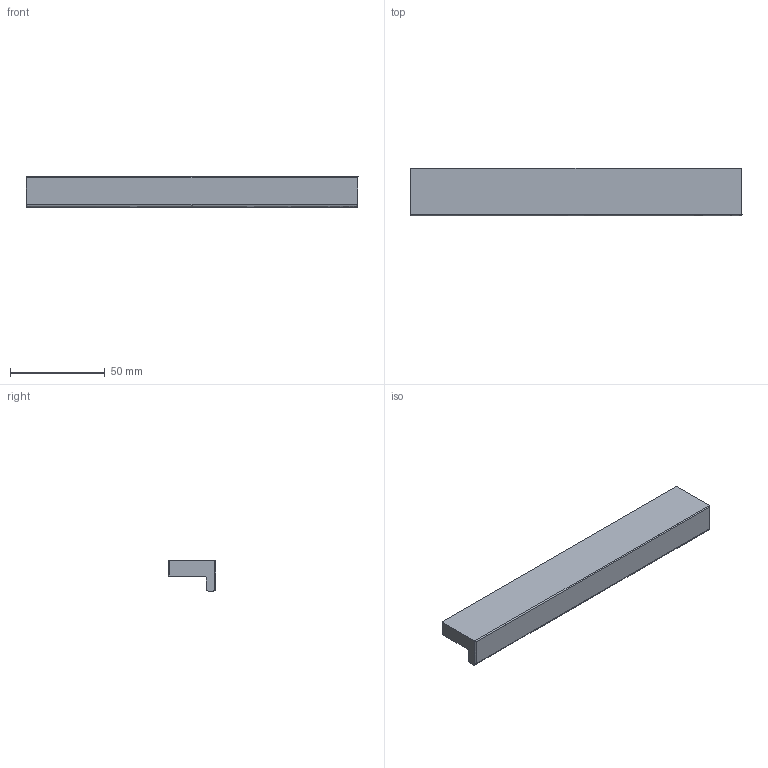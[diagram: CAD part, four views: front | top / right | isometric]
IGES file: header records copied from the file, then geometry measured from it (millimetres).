
Start section: Data from Parasolid IGES Translator 15.0.47, Copyright(c) 2006 Siemens P LM Software. All Rights Reserved.
Global section: file name: 9113297.igs; native system:  By UGS Corp.; preprocessor: XPlus GENERIC/IGES 3.0; author: Noname; organization: Noname; date: 20140122.182841; units: millimetre
Bounding box: 175.01 x 25 x 16 mm (x, y, z)
Surface area: 14731.6 mm2 (no closed solid volume)
Topology: 0 solids, 0 shells, 20 faces, 92 edges, 90 vertices
Faces by surface type: extrusion 10, revolution 10
